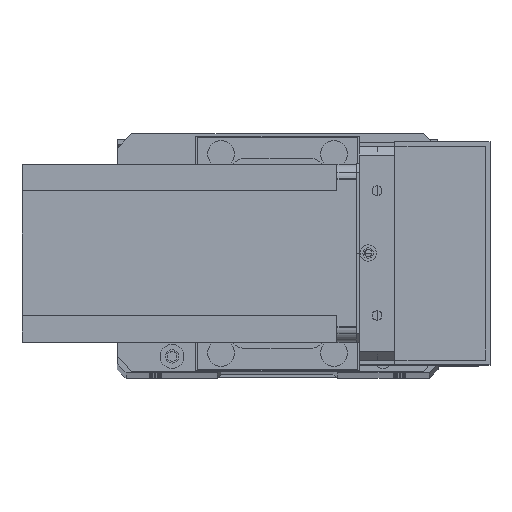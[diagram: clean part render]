
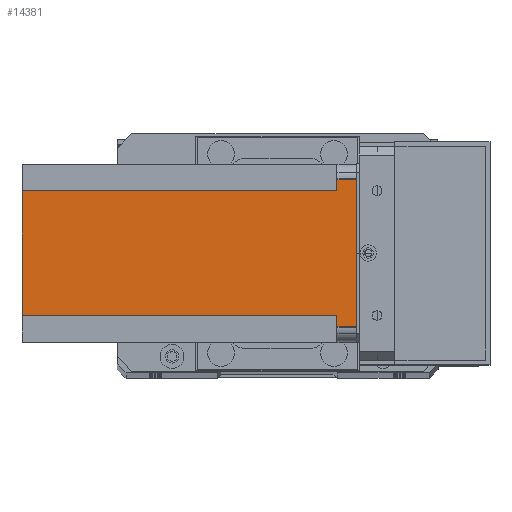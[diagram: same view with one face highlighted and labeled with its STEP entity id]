
A CAD part, top view. The second image highlights one B-rep face of the part: STEP entity #14381.
In plain terms, the highlighted planar face has unit normal (0, 0, 1) as drawn and (1, 0, 0) by its records, which use the part's own axes.
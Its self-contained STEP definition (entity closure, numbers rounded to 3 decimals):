
#621 = ORIENTED_EDGE ( 'NONE', *, *, #5866, .F. ) ;
#880 = LINE ( 'NONE', #15508, #25193 ) ;
#888 = EDGE_CURVE ( 'NONE', #28234, #16351, #15725, .T. ) ;
#1220 = ORIENTED_EDGE ( 'NONE', *, *, #11832, .F. ) ;
#1450 = LINE ( 'NONE', #28813, #6936 ) ;
#1492 = VECTOR ( 'NONE', #18564, 1000. ) ;
#1522 = EDGE_CURVE ( 'NONE', #18551, #16163, #2621, .T. ) ;
#2493 = CARTESIAN_POINT ( 'NONE',  ( 60., 55., -6.5 ) ) ;
#2621 = LINE ( 'NONE', #21736, #20682 ) ;
#2783 = VERTEX_POINT ( 'NONE', #10742 ) ;
#3250 = EDGE_CURVE ( 'NONE', #30427, #25664, #1450, .T. ) ;
#3735 = ORIENTED_EDGE ( 'NONE', *, *, #18537, .F. ) ;
#4566 = DIRECTION ( 'NONE',  ( 0., 0., 1. ) ) ;
#4827 = PLANE ( 'NONE',  #25127 ) ;
#5249 = DIRECTION ( 'NONE',  ( 0., 0., -1. ) ) ;
#5866 = EDGE_CURVE ( 'NONE', #18192, #16163, #880, .T. ) ;
#6581 = LINE ( 'NONE', #13282, #24651 ) ;
#6737 = CARTESIAN_POINT ( 'NONE',  ( 60., 0., 0. ) ) ;
#6810 = DIRECTION ( 'NONE',  ( 0., -1., 0. ) ) ;
#6936 = VECTOR ( 'NONE', #14744, 1000. ) ;
#7601 = EDGE_CURVE ( 'NONE', #2783, #25664, #10754, .T. ) ;
#7716 = LINE ( 'NONE', #6737, #1492 ) ;
#8616 = DIRECTION ( 'NONE',  ( 0., 0., 1. ) ) ;
#9397 = DIRECTION ( 'NONE',  ( 0., 0., -1. ) ) ;
#9656 = LINE ( 'NONE', #25546, #27691 ) ;
#10742 = CARTESIAN_POINT ( 'NONE',  ( 60., 51., -6.5 ) ) ;
#10754 = LINE ( 'NONE', #14114, #23246 ) ;
#10963 = VECTOR ( 'NONE', #4566, 1000. ) ;
#11832 = EDGE_CURVE ( 'NONE', #30427, #18192, #6581, .T. ) ;
#13282 = CARTESIAN_POINT ( 'NONE',  ( 60., 9., -112.5 ) ) ;
#14114 = CARTESIAN_POINT ( 'NONE',  ( 60., 51., -112.5 ) ) ;
#14256 = DIRECTION ( 'NONE',  ( 0., 1., 0. ) ) ;
#14284 = ORIENTED_EDGE ( 'NONE', *, *, #3250, .T. ) ;
#14381 = ADVANCED_FACE ( 'NONE', ( #27037 ), #4827, .T. ) ;
#14744 = DIRECTION ( 'NONE',  ( 0., 1., 0. ) ) ;
#14925 = CARTESIAN_POINT ( 'NONE',  ( 60., 55., 0. ) ) ;
#15508 = CARTESIAN_POINT ( 'NONE',  ( 60., 0., -6.5 ) ) ;
#15725 = LINE ( 'NONE', #18678, #10963 ) ;
#16163 = VERTEX_POINT ( 'NONE', #16594 ) ;
#16190 = CARTESIAN_POINT ( 'NONE',  ( 60., 5., 0. ) ) ;
#16351 = VERTEX_POINT ( 'NONE', #14925 ) ;
#16594 = CARTESIAN_POINT ( 'NONE',  ( 60., 5., -6.5 ) ) ;
#16817 = CARTESIAN_POINT ( 'NONE',  ( 60., 9., -112.5 ) ) ;
#18192 = VERTEX_POINT ( 'NONE', #21888 ) ;
#18537 = EDGE_CURVE ( 'NONE', #18551, #16351, #7716, .T. ) ;
#18551 = VERTEX_POINT ( 'NONE', #16190 ) ;
#18564 = DIRECTION ( 'NONE',  ( 0., 1., 0. ) ) ;
#18678 = CARTESIAN_POINT ( 'NONE',  ( 60., 55., -112.5 ) ) ;
#20062 = EDGE_LOOP ( 'NONE', ( #21028, #24161, #3735, #26346, #621, #1220, #14284, #26889 ) ) ;
#20682 = VECTOR ( 'NONE', #5249, 1000. ) ;
#21028 = ORIENTED_EDGE ( 'NONE', *, *, #23928, .F. ) ;
#21736 = CARTESIAN_POINT ( 'NONE',  ( 60., 5., -112.5 ) ) ;
#21888 = CARTESIAN_POINT ( 'NONE',  ( 60., 9., -6.5 ) ) ;
#22422 = DIRECTION ( 'NONE',  ( 0., -1., 0. ) ) ;
#23246 = VECTOR ( 'NONE', #9397, 1000. ) ;
#23656 = CARTESIAN_POINT ( 'NONE',  ( 60., 0., -112.5 ) ) ;
#23928 = EDGE_CURVE ( 'NONE', #28234, #2783, #9656, .T. ) ;
#24161 = ORIENTED_EDGE ( 'NONE', *, *, #888, .T. ) ;
#24651 = VECTOR ( 'NONE', #8616, 1000. ) ;
#25127 = AXIS2_PLACEMENT_3D ( 'NONE', #23656, #28356, #14256 ) ;
#25193 = VECTOR ( 'NONE', #22422, 1000. ) ;
#25546 = CARTESIAN_POINT ( 'NONE',  ( 60., 60., -6.5 ) ) ;
#25664 = VERTEX_POINT ( 'NONE', #27992 ) ;
#26346 = ORIENTED_EDGE ( 'NONE', *, *, #1522, .T. ) ;
#26889 = ORIENTED_EDGE ( 'NONE', *, *, #7601, .F. ) ;
#27037 = FACE_OUTER_BOUND ( 'NONE', #20062, .T. ) ;
#27691 = VECTOR ( 'NONE', #6810, 1000. ) ;
#27992 = CARTESIAN_POINT ( 'NONE',  ( 60., 51., -112.5 ) ) ;
#28234 = VERTEX_POINT ( 'NONE', #2493 ) ;
#28356 = DIRECTION ( 'NONE',  ( 1., 0., 0. ) ) ;
#28813 = CARTESIAN_POINT ( 'NONE',  ( 60., 0., -112.5 ) ) ;
#30427 = VERTEX_POINT ( 'NONE', #16817 ) ;
